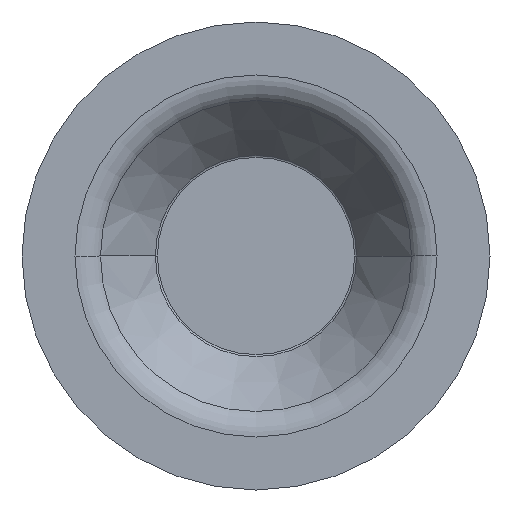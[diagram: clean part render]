
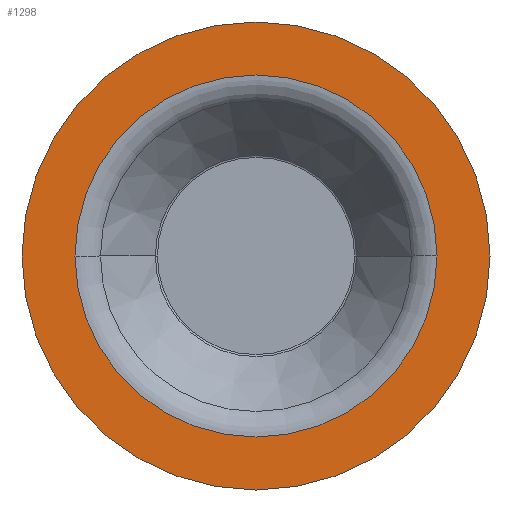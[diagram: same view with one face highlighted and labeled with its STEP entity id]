
A CAD part, front view. The second image highlights one B-rep face of the part: STEP entity #1298.
In plain terms, the highlighted planar face has unit normal (0, -1, 0).
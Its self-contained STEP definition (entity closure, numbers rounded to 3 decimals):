
#25 = ORIENTED_EDGE ( 'NONE', *, *, #405, .T. ) ;
#93 = AXIS2_PLACEMENT_3D ( 'NONE', #1235, #469, #1636 ) ;
#133 = CARTESIAN_POINT ( 'NONE',  ( -36.744, -22., 0. ) ) ;
#167 = CARTESIAN_POINT ( 'NONE',  ( 0., -22., 0. ) ) ;
#208 = DIRECTION ( 'NONE',  ( 0., -1., 0. ) ) ;
#211 = AXIS2_PLACEMENT_3D ( 'NONE', #1616, #596, #482 ) ;
#293 = VERTEX_POINT ( 'NONE', #1055 ) ;
#302 = DIRECTION ( 'NONE',  ( -1., 0., 0. ) ) ;
#314 = CARTESIAN_POINT ( 'NONE',  ( 36.744, -22., 0. ) ) ;
#333 = VERTEX_POINT ( 'NONE', #1558 ) ;
#344 = AXIS2_PLACEMENT_3D ( 'NONE', #933, #808, #1329 ) ;
#405 = EDGE_CURVE ( 'NONE', #293, #333, #905, .T. ) ;
#433 = VERTEX_POINT ( 'NONE', #133 ) ;
#469 = DIRECTION ( 'NONE',  ( 0., -1., 0. ) ) ;
#482 = DIRECTION ( 'NONE',  ( 1., 0., 0. ) ) ;
#596 = DIRECTION ( 'NONE',  ( 0., -1., 0. ) ) ;
#607 = ORIENTED_EDGE ( 'NONE', *, *, #1649, .F. ) ;
#698 = ORIENTED_EDGE ( 'NONE', *, *, #1167, .T. ) ;
#699 = VERTEX_POINT ( 'NONE', #314 ) ;
#718 = CIRCLE ( 'NONE', #1330, 36.744 ) ;
#720 = FACE_BOUND ( 'NONE', #1438, .T. ) ;
#808 = DIRECTION ( 'NONE',  ( 0., -1., 0. ) ) ;
#817 = EDGE_LOOP ( 'NONE', ( #25, #698 ) ) ;
#886 = ORIENTED_EDGE ( 'NONE', *, *, #1106, .F. ) ;
#905 = CIRCLE ( 'NONE', #211, 47.5 ) ;
#933 = CARTESIAN_POINT ( 'NONE',  ( 0., -22., 0. ) ) ;
#995 = CIRCLE ( 'NONE', #344, 47.5 ) ;
#1055 = CARTESIAN_POINT ( 'NONE',  ( 47.5, -22., 0. ) ) ;
#1074 = CARTESIAN_POINT ( 'NONE',  ( 47.5, -22., 0. ) ) ;
#1106 = EDGE_CURVE ( 'NONE', #699, #433, #718, .T. ) ;
#1116 = CIRCLE ( 'NONE', #93, 36.744 ) ;
#1167 = EDGE_CURVE ( 'NONE', #333, #293, #995, .T. ) ;
#1235 = CARTESIAN_POINT ( 'NONE',  ( 0., -22., 0. ) ) ;
#1297 = DIRECTION ( 'NONE',  ( 0., -1., 0. ) ) ;
#1298 = ADVANCED_FACE ( 'NONE', ( #720, #1618 ), #1580, .T. ) ;
#1328 = DIRECTION ( 'NONE',  ( 1., 0., 0. ) ) ;
#1329 = DIRECTION ( 'NONE',  ( 1., 0., 0. ) ) ;
#1330 = AXIS2_PLACEMENT_3D ( 'NONE', #167, #1297, #302 ) ;
#1403 = AXIS2_PLACEMENT_3D ( 'NONE', #1074, #208, #1328 ) ;
#1438 = EDGE_LOOP ( 'NONE', ( #607, #886 ) ) ;
#1558 = CARTESIAN_POINT ( 'NONE',  ( -47.5, -22., 0. ) ) ;
#1580 = PLANE ( 'NONE',  #1403 ) ;
#1616 = CARTESIAN_POINT ( 'NONE',  ( 0., -22., 0. ) ) ;
#1618 = FACE_OUTER_BOUND ( 'NONE', #817, .T. ) ;
#1636 = DIRECTION ( 'NONE',  ( -1., 0., 0. ) ) ;
#1649 = EDGE_CURVE ( 'NONE', #433, #699, #1116, .T. ) ;
